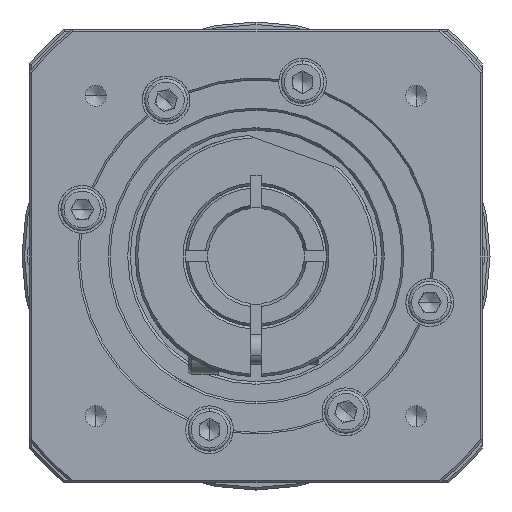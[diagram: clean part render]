
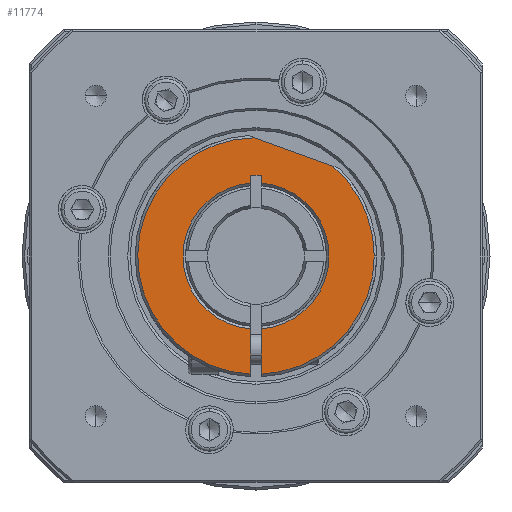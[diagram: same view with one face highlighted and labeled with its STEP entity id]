
A CAD part, left-side view. The second image highlights one B-rep face of the part: STEP entity #11774.
In plain terms, the highlighted planar face has unit normal (-1, 0, 0) as drawn and (1, 0, 0) by its records, which use the part's own axes.
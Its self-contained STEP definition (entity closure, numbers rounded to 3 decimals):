
#76 = CARTESIAN_POINT ( 'NONE',  ( 6.5, -1., -16. ) ) ;
#196 = LINE ( 'NONE', #8975, #23497 ) ;
#503 = CARTESIAN_POINT ( 'NONE',  ( 6.5, -1., 14.465 ) ) ;
#625 = CARTESIAN_POINT ( 'NONE',  ( 6.5, -23.5, 0. ) ) ;
#749 = DIRECTION ( 'NONE',  ( 1., 0., 0. ) ) ;
#838 = LINE ( 'NONE', #2561, #20471 ) ;
#1230 = EDGE_CURVE ( 'NONE', #22720, #29239, #7585, .T. ) ;
#1645 = DIRECTION ( 'NONE',  ( 1., 0., 0. ) ) ;
#2412 = VERTEX_POINT ( 'NONE', #14779 ) ;
#2436 = DIRECTION ( 'NONE',  ( -1., 0., 0. ) ) ;
#2561 = CARTESIAN_POINT ( 'NONE',  ( 6.5, 1., 0. ) ) ;
#2864 = AXIS2_PLACEMENT_3D ( 'NONE', #23067, #8798, #6676 ) ;
#3341 = CARTESIAN_POINT ( 'NONE',  ( 6.5, 1., 14.465 ) ) ;
#3859 = AXIS2_PLACEMENT_3D ( 'NONE', #4173, #1645, #22677 ) ;
#4173 = CARTESIAN_POINT ( 'NONE',  ( 6.5, 0., 0. ) ) ;
#4861 = EDGE_CURVE ( 'NONE', #28325, #5374, #17873, .T. ) ;
#5187 = CARTESIAN_POINT ( 'NONE',  ( 6.5, -1., 23.479 ) ) ;
#5322 = VECTOR ( 'NONE', #9243, 1000. ) ;
#5374 = VERTEX_POINT ( 'NONE', #503 ) ;
#5792 = CARTESIAN_POINT ( 'NONE',  ( 6.5, -1., -14.465 ) ) ;
#6402 = PLANE ( 'NONE',  #3859 ) ;
#6676 = DIRECTION ( 'NONE',  ( 0., 0., -1. ) ) ;
#6915 = VERTEX_POINT ( 'NONE', #76 ) ;
#7007 = CARTESIAN_POINT ( 'NONE',  ( 6.5, 1., -16. ) ) ;
#7529 = EDGE_CURVE ( 'NONE', #11598, #10731, #28631, .T. ) ;
#7585 = CIRCLE ( 'NONE', #2864, 14.5 ) ;
#8798 = DIRECTION ( 'NONE',  ( -1., 0., 0. ) ) ;
#8975 = CARTESIAN_POINT ( 'NONE',  ( 6.5, 1., 34.492 ) ) ;
#9162 = FACE_OUTER_BOUND ( 'NONE', #26329, .T. ) ;
#9243 = DIRECTION ( 'NONE',  ( 0., -1., 0. ) ) ;
#9473 = ORIENTED_EDGE ( 'NONE', *, *, #13554, .T. ) ;
#9679 = CARTESIAN_POINT ( 'NONE',  ( 6.5, 1.489, -23.954 ) ) ;
#10731 = VERTEX_POINT ( 'NONE', #19854 ) ;
#11470 = ORIENTED_EDGE ( 'NONE', *, *, #7529, .T. ) ;
#11598 = VERTEX_POINT ( 'NONE', #625 ) ;
#11689 = CARTESIAN_POINT ( 'NONE',  ( 6.5, 0., 0. ) ) ;
#11774 = ADVANCED_FACE ( 'NONE', ( #9162 ), #6402, .T. ) ;
#11968 = EDGE_CURVE ( 'NONE', #29970, #2412, #27827, .T. ) ;
#12473 = CARTESIAN_POINT ( 'NONE',  ( 6.5, 1., -16. ) ) ;
#13146 = ORIENTED_EDGE ( 'NONE', *, *, #13150, .T. ) ;
#13150 = EDGE_CURVE ( 'NONE', #10731, #29970, #19565, .T. ) ;
#13474 = ORIENTED_EDGE ( 'NONE', *, *, #24419, .T. ) ;
#13554 = EDGE_CURVE ( 'NONE', #6915, #28325, #16262, .T. ) ;
#13673 = EDGE_CURVE ( 'NONE', #2412, #22720, #196, .T. ) ;
#13694 = LINE ( 'NONE', #7007, #5322 ) ;
#13709 = DIRECTION ( 'NONE',  ( 0., -1., 0. ) ) ;
#13843 = DIRECTION ( 'NONE',  ( 0., 0., 1. ) ) ;
#14016 = DIRECTION ( 'NONE',  ( 1., 0., 0. ) ) ;
#14263 = EDGE_CURVE ( 'NONE', #5374, #26177, #14932, .T. ) ;
#14677 = CARTESIAN_POINT ( 'NONE',  ( 6.5, 0., 0. ) ) ;
#14779 = CARTESIAN_POINT ( 'NONE',  ( 6.5, 1., 23.479 ) ) ;
#14932 = LINE ( 'NONE', #25208, #17114 ) ;
#15666 = ORIENTED_EDGE ( 'NONE', *, *, #15760, .T. ) ;
#15760 = EDGE_CURVE ( 'NONE', #26177, #11598, #24603, .T. ) ;
#16262 = LINE ( 'NONE', #29575, #21713 ) ;
#16747 = ORIENTED_EDGE ( 'NONE', *, *, #20048, .T. ) ;
#17025 = DIRECTION ( 'NONE',  ( 0., -1., 0. ) ) ;
#17114 = VECTOR ( 'NONE', #13843, 1000. ) ;
#17277 = AXIS2_PLACEMENT_3D ( 'NONE', #14677, #749, #17025 ) ;
#17551 = CARTESIAN_POINT ( 'NONE',  ( 6.5, 0.239, -23.499 ) ) ;
#17873 = CIRCLE ( 'NONE', #25543, 14.5 ) ;
#18003 = ORIENTED_EDGE ( 'NONE', *, *, #14263, .T. ) ;
#18047 = DIRECTION ( 'NONE',  ( 0., 0., -1. ) ) ;
#18341 = ORIENTED_EDGE ( 'NONE', *, *, #13673, .T. ) ;
#18451 = DIRECTION ( 'NONE',  ( 1., 0., 0. ) ) ;
#18486 = DIRECTION ( 'NONE',  ( 0., 1., 0. ) ) ;
#18811 = ORIENTED_EDGE ( 'NONE', *, *, #4861, .T. ) ;
#19565 = LINE ( 'NONE', #9679, #27317 ) ;
#19854 = CARTESIAN_POINT ( 'NONE',  ( 6.5, -15.288, -17.848 ) ) ;
#20048 = EDGE_CURVE ( 'NONE', #29239, #25161, #838, .T. ) ;
#20471 = VECTOR ( 'NONE', #21056, 1000. ) ;
#21056 = DIRECTION ( 'NONE',  ( 0., 0., -1. ) ) ;
#21713 = VECTOR ( 'NONE', #23250, 1000. ) ;
#22574 = AXIS2_PLACEMENT_3D ( 'NONE', #11689, #14016, #13709 ) ;
#22677 = DIRECTION ( 'NONE',  ( 0., 0., -1. ) ) ;
#22720 = VERTEX_POINT ( 'NONE', #3341 ) ;
#23067 = CARTESIAN_POINT ( 'NONE',  ( 6.5, 0., 0. ) ) ;
#23151 = CARTESIAN_POINT ( 'NONE',  ( 6.5, 0., 0. ) ) ;
#23250 = DIRECTION ( 'NONE',  ( 0., 0., 1. ) ) ;
#23497 = VECTOR ( 'NONE', #18047, 1000. ) ;
#23877 = AXIS2_PLACEMENT_3D ( 'NONE', #23151, #18451, #28223 ) ;
#24061 = CARTESIAN_POINT ( 'NONE',  ( 6.5, 1., -14.465 ) ) ;
#24109 = ORIENTED_EDGE ( 'NONE', *, *, #1230, .T. ) ;
#24419 = EDGE_CURVE ( 'NONE', #25161, #6915, #13694, .T. ) ;
#24603 = CIRCLE ( 'NONE', #17277, 23.5 ) ;
#25161 = VERTEX_POINT ( 'NONE', #12473 ) ;
#25208 = CARTESIAN_POINT ( 'NONE',  ( 6.5, -1., 34.492 ) ) ;
#25543 = AXIS2_PLACEMENT_3D ( 'NONE', #25674, #2436, #18486 ) ;
#25674 = CARTESIAN_POINT ( 'NONE',  ( 6.5, 0., 0. ) ) ;
#25708 = DIRECTION ( 'NONE',  ( 0., 0.94, -0.342 ) ) ;
#26177 = VERTEX_POINT ( 'NONE', #5187 ) ;
#26329 = EDGE_LOOP ( 'NONE', ( #18003, #15666, #11470, #13146, #29618, #18341, #24109, #16747, #13474, #9473, #18811 ) ) ;
#27317 = VECTOR ( 'NONE', #25708, 1000. ) ;
#27827 = CIRCLE ( 'NONE', #22574, 23.5 ) ;
#28223 = DIRECTION ( 'NONE',  ( 0., -1., 0. ) ) ;
#28325 = VERTEX_POINT ( 'NONE', #5792 ) ;
#28631 = CIRCLE ( 'NONE', #23877, 23.5 ) ;
#29239 = VERTEX_POINT ( 'NONE', #24061 ) ;
#29575 = CARTESIAN_POINT ( 'NONE',  ( 6.5, -1., 0. ) ) ;
#29618 = ORIENTED_EDGE ( 'NONE', *, *, #11968, .T. ) ;
#29970 = VERTEX_POINT ( 'NONE', #17551 ) ;
